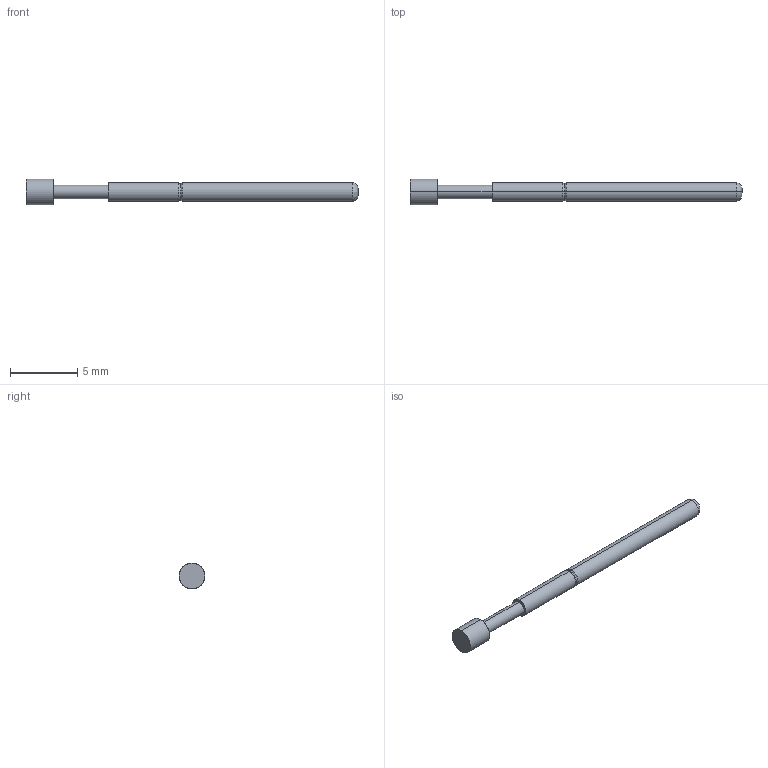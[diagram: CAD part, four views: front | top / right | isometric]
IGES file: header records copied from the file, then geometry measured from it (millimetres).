
Start section: SolidWorks IGES file using analytic representation for surfaces
Global section: file name: Z:\probe solid model mockups\Solidworks models\IGES Files\EPA-2\EPA-2F.IGS; native system: SolidWorks 2006 by SolidWorks Corporation; preprocessor: SolidWorks 2006 by SolidWorks Corporation; author: tsakatani; date: 071220.161806; units: inch
Bounding box: 24.64 x 1.91 x 1.91 mm (x, y, z)
Surface area: 111.3 mm2 (no closed solid volume)
Topology: 0 solids, 0 shells, 18 faces, 184 edges, 184 vertices
Faces by surface type: bspline 10, revolution 8
